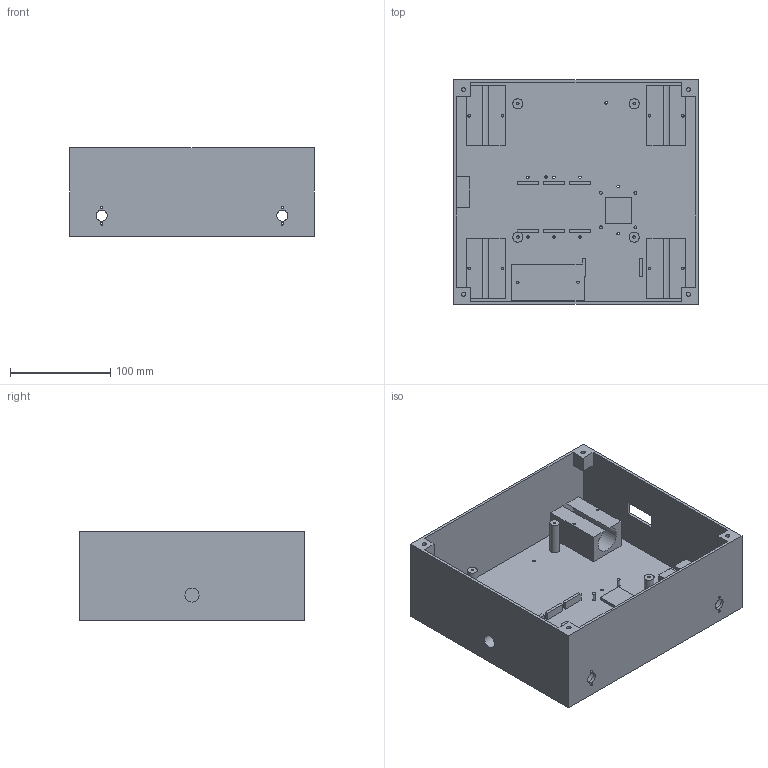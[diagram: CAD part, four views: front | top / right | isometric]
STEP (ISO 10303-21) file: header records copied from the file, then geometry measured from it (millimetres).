
FILE_DESCRIPTION(('Open CASCADE Model'),'2;1');
FILE_NAME('Open CASCADE Shape Model','2026-07-25T17:42:38',('Author'),( 'Open CASCADE'),'Open CASCADE STEP processor 7.9','build123d', 'Unknown');
FILE_SCHEMA(('AUTOMOTIVE_DESIGN { 1 0 10303 214 1 1 1 1 }'));
Products named in the file (1): COMPOUND
Bounding box: 244 x 224 x 88 mm (x, y, z)
Volume: 611987.9 mm3; surface area: 319825.9 mm2
Topology: 1 solids, 1 shells, 686 faces, 1809 edges, 1206 vertices
Faces by surface type: plane 334, extrusion 299, cylinder 53
Full cylindrical faces by diameter (mm): 2.5 x32, 3 x4, 4.2 x4, 10 x4, 11 x4, 14 x1
Entity records: 52304 total; most frequent: CARTESIAN_POINT 18990, DIRECTION 4703, VECTOR 3631, ORIENTED_EDGE 3618, PCURVE 3618, DEFINITIONAL_REPRESENTATION 3618, LINE 3332, B_SPLINE_CURVE_WITH_KNOTS 2178
